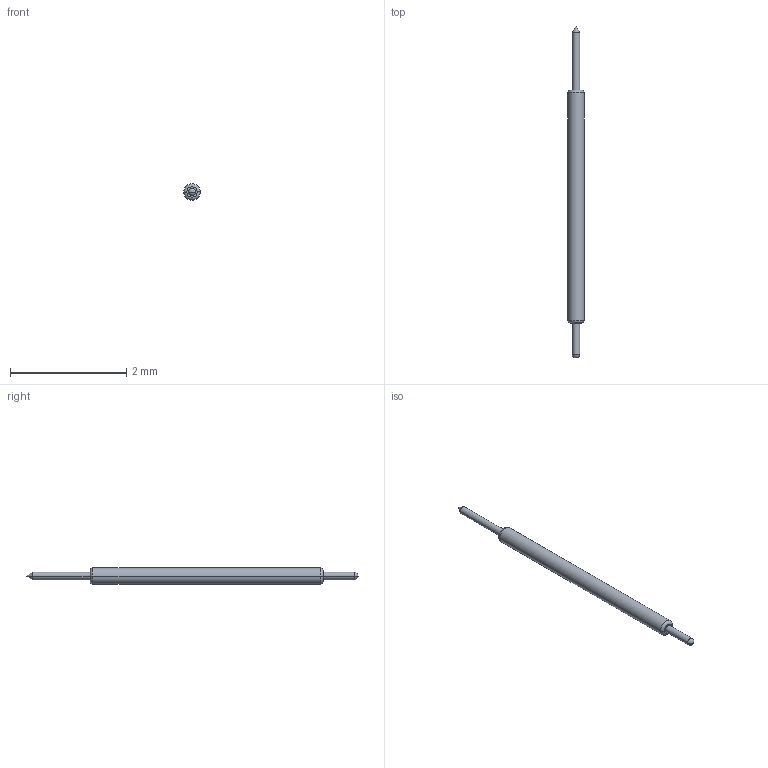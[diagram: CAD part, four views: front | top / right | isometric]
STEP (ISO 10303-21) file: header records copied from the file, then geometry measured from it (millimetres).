
FILE_DESCRIPTION((''),'2;1');
FILE_NAME('JD-SX028-113','2020-11-04T',('lenovo'),(''),'PRO/ENGINEER BY PARAMETRIC TECHNOLOGY CORPORATION, 2008380','PRO/ENGINEER BY PARAMETRIC TECHNOLOGY CORPORATION, 2008380','');
FILE_SCHEMA(('CONFIG_CONTROL_DESIGN'));
Length unit declared in the file: millimetre
Products named in the file (1): JD-SX028-113
Bounding box: 0.28 x 5.7 x 0.28 mm (x, y, z)
Volume: 0.3 mm3; surface area: 4.3 mm2
Topology: 1 solids, 1 shells, 16 faces, 34 edges, 18 vertices
Faces by surface type: cylinder 6, torus 4, plane 2, cone 2, sphere 2
Entity records: 446 total; most frequent: DIRECTION 84, CARTESIAN_POINT 64, ORIENTED_EDGE 60, AXIS2_PLACEMENT_3D 38, EDGE_CURVE 30, CIRCLE 22, VERTEX_POINT 18, EDGE_LOOP 18
